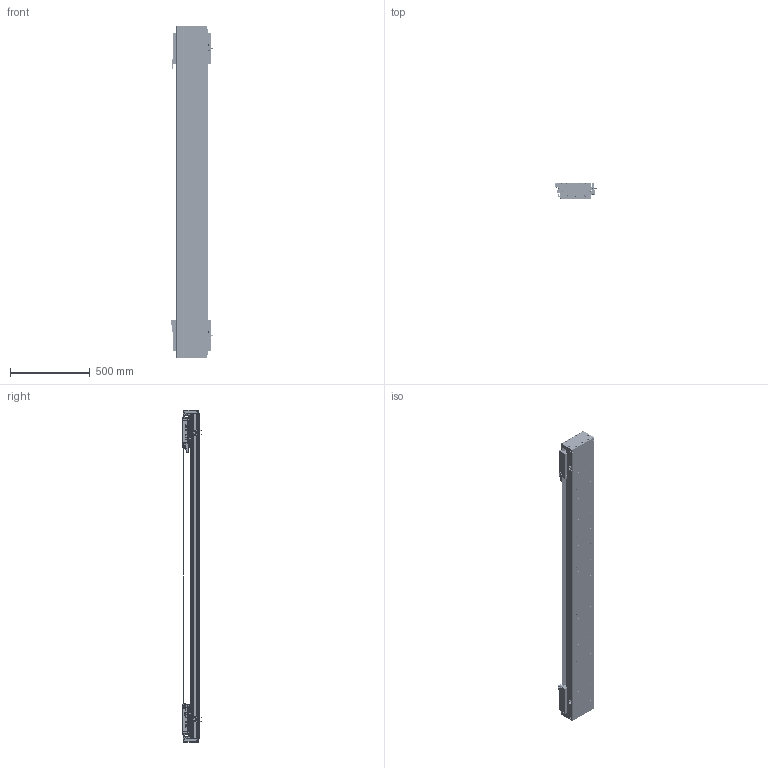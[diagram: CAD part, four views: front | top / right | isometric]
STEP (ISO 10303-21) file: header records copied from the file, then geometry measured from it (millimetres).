
FILE_DESCRIPTION (( 'STEP AP203' ), '1' );
FILE_NAME ('DA-C195-2-C2-T1580-C010-0.2 眻盄萇儂.STEP', '2025-08-14T02:05:28', ( '' ), ( '' ), 'SwSTEP 2.0', 'SolidWorks 2019', '' );
FILE_SCHEMA (( 'CONFIG_CONTROL_DESIGN' ));
Length unit declared in the file: millimetre
Products named in the file (19): 葩璃 DA95-GT-T-00; DA95-HXJ-00 遣喳砎蝶; DKW168-HXJ-ZJ-00 笢潔滅袉砎蝶; DA195詩湍菜輸; PM-Y65嫖萇羲壽郪璃; DA-C195-2-C2-T1580-C010-0.2 眻盄萇儂; IU-CU195-L 菁釱絳寢; IU-CU195-L-00 菁釱(L2040); DA165-GYP-00 光电感应片(默认); DA195詩湍裔啣; DKW-KGZ-ZJ-00 中间光电开关支架; DKW-GYP-ZJ-00 笢潔嫖萇覜茼え; LMT黍杅芛; DA195詩湍嶺輸; PM-T45ㄗ侂狟ㄘ; MS200 棠掑喜S315-T1740; DA195詩湍郪璃; DA-C195-GD-DB-H-00 傷啣; CU195-C2賑輸-俋楷
Assembly tree (37 placements, depth 3):
  DA-C195-2-C2-T1580-C010-0.2 眻盄萇儂
    DA195詩湍郪璃
      DA195詩湍菜輸  x2
      DA195詩湍裔啣
      DA195詩湍嶺輸  x2
      DA95-HXJ-00 遣喳砎蝶  x8
      DA-C195-GD-DB-H-00 傷啣  x2
    IU-CU195-L 菁釱絳寢
      IU-CU195-L-00 菁釱(L2040)
      葩璃 DA95-GT-T-00  x4
    LMT黍杅芛  x2
    MS200 棠掑喜S315-T1740
    PM-T45ㄗ侂狟ㄘ  x4
    DA165-GYP-00 光电感应片(默认)  x2
    PM-Y65嫖萇羲壽郪璃
    DKW168-HXJ-ZJ-00 笢潔滅袉砎蝶
    DKW-GYP-ZJ-00 笢潔嫖萇覜茼え
    DKW-KGZ-ZJ-00 中间光电开关支架
    CU195-C2賑輸-俋楷  x2
Bounding box: 258.2 x 115.45 x 2080 mm (x, y, z)
Volume: 13544177 mm3; surface area: 3879848.8 mm2
Topology: 114 solids, 242 shells, 6775 faces, 17687 edges, 10961 vertices
Faces by surface type: cylinder 3076, plane 2615, cone 916, torus 88, sphere 72, bspline 8
Entity records: 138837 total; most frequent: CARTESIAN_POINT 35591, ORIENTED_EDGE 21206, DIRECTION 20770, EDGE_CURVE 10603, AXIS2_PLACEMENT_3D 7629, VERTEX_POINT 6848, VECTOR 5512, LINE 5512
